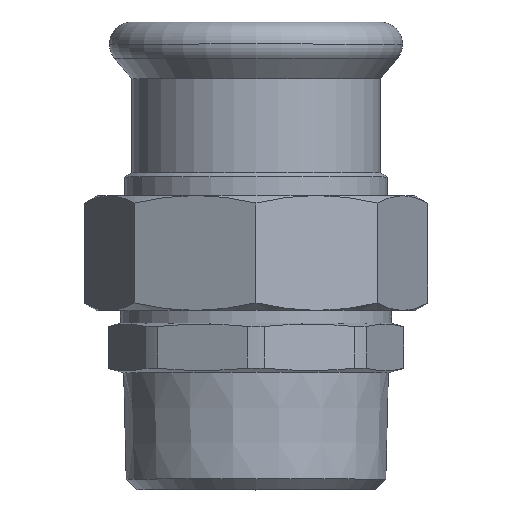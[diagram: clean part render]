
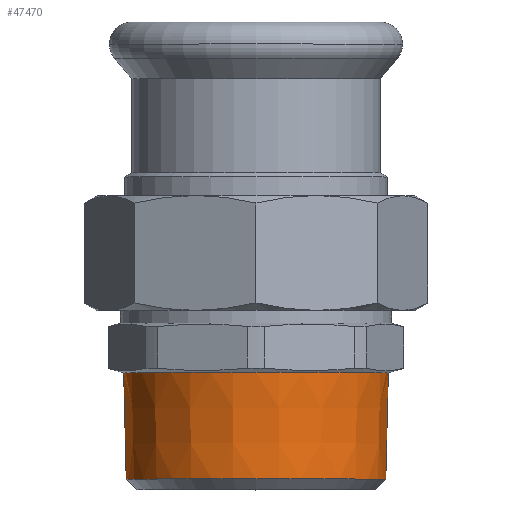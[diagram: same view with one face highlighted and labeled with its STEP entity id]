
A CAD part, top view. The second image highlights one B-rep face of the part: STEP entity #47470.
In plain terms, the highlighted conical face has half-angle 1.378 degrees and reference radius 24.173 mm.
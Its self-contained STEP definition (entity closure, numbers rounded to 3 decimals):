
#44640=CARTESIAN_POINT('',(353.599,4.603,
0.));
#44650=VERTEX_POINT('',#44640);
#47020=CARTESIAN_POINT('',(401.945,4.603,0.));
#47030=VERTEX_POINT('',#47020);
#47060=CARTESIAN_POINT('',(377.772,4.603,0.));
#47070=DIRECTION('',(0.,1.,0.));
#47080=DIRECTION('',(1.,0.,0.));
#47090=AXIS2_PLACEMENT_3D('',#47060,#47070,#47080);
#47100=CIRCLE('',#47090,24.173);
#47110=EDGE_CURVE('',#44650,#47030,#47100,.T.);
#47160=CARTESIAN_POINT('',(377.772,4.603,0.));
#47170=DIRECTION('',(0.,1.,0.));
#47180=DIRECTION('',(1.,0.,0.));
#47190=AXIS2_PLACEMENT_3D('',#47160,#47170,#47180);
#47200=CONICAL_SURFACE('',#47190,24.173,0.024);
#47210=CARTESIAN_POINT('',(353.599,4.603,
0.));
#47220=DIRECTION('',(-0.024,1.,
0.));
#47230=VECTOR('',#47220,1.);
#47240=LINE('',#47210,#47230);
#47250=CARTESIAN_POINT('',(354.067,-14.853,
0.));
#47260=VERTEX_POINT('',#47250);
#47270=EDGE_CURVE('',#47260,#44650,#47240,.T.);
#47280=ORIENTED_EDGE('',*,*,#47270,.F.);
#47290=ORIENTED_EDGE('',*,*,#47110,.F.);
#47300=CARTESIAN_POINT('',(401.945,4.603,0.));
#47310=DIRECTION('',(0.024,1.,0.));
#47320=VECTOR('',#47310,1.);
#47330=LINE('',#47300,#47320);
#47340=CARTESIAN_POINT('',(401.477,-14.853,0.));
#47350=VERTEX_POINT('',#47340);
#47360=EDGE_CURVE('',#47350,#47030,#47330,.T.);
#47370=ORIENTED_EDGE('',*,*,#47360,.T.);
#47380=CARTESIAN_POINT('',(377.772,-14.853,0.));
#47390=DIRECTION('',(0.,1.,0.));
#47400=DIRECTION('',(1.,0.,0.));
#47410=AXIS2_PLACEMENT_3D('',#47380,#47390,#47400);
#47420=CIRCLE('',#47410,23.705);
#47430=EDGE_CURVE('',#47260,#47350,#47420,.T.);
#47440=ORIENTED_EDGE('',*,*,#47430,.T.);
#47450=EDGE_LOOP('',(#47440,#47370,#47290,#47280));
#47460=FACE_OUTER_BOUND('',#47450,.T.);
#47470=ADVANCED_FACE('',(#47460),#47200,.T.);
